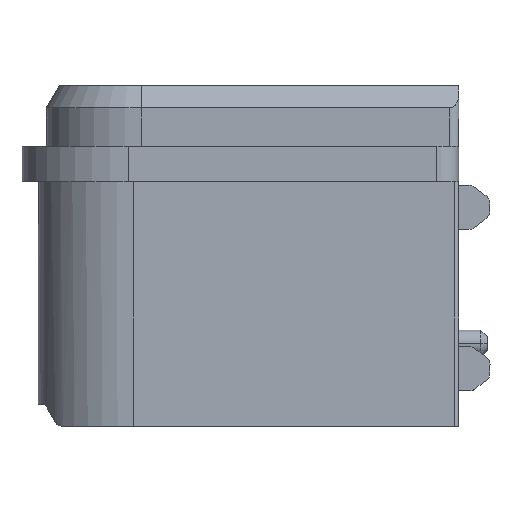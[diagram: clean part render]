
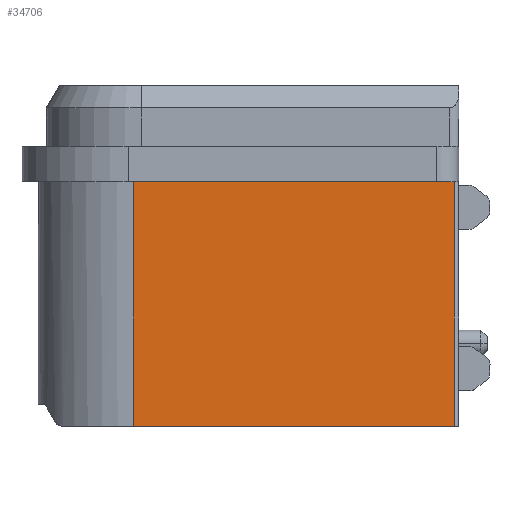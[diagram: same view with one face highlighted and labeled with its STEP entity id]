
A CAD part, left-side view. The second image highlights one B-rep face of the part: STEP entity #34706.
In plain terms, the highlighted planar face has unit normal (-1, 0, 0).
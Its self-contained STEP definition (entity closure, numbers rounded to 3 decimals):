
#3129 = PLANE ( 'NONE',  #39434 ) ;
#3597 = CARTESIAN_POINT ( 'NONE',  ( -66.335, 2.725, -19.295 ) ) ;
#5612 = CARTESIAN_POINT ( 'NONE',  ( -66.335, 2.725, -19.295 ) ) ;
#6205 = EDGE_CURVE ( 'NONE', #19717, #52200, #44287, .T. ) ;
#9657 = ORIENTED_EDGE ( 'NONE', *, *, #47470, .F. ) ;
#11625 = ORIENTED_EDGE ( 'NONE', *, *, #6205, .T. ) ;
#12045 = FACE_OUTER_BOUND ( 'NONE', #46489, .T. ) ;
#14490 = EDGE_CURVE ( 'NONE', #52789, #57006, #51337, .T. ) ;
#15240 = CARTESIAN_POINT ( 'NONE',  ( -66.335, 9.985, -19.295 ) ) ;
#15249 = VECTOR ( 'NONE', #26950, 1000. ) ;
#18640 = CARTESIAN_POINT ( 'NONE',  ( -66.335, 2.725, -13.765 ) ) ;
#19717 = VERTEX_POINT ( 'NONE', #26865 ) ;
#21662 = CARTESIAN_POINT ( 'NONE',  ( -66.335, 2.725, -19.295 ) ) ;
#24126 = EDGE_CURVE ( 'NONE', #57006, #19717, #40318, .T. ) ;
#26171 = DIRECTION ( 'NONE',  ( 0., 0., -1. ) ) ;
#26865 = CARTESIAN_POINT ( 'NONE',  ( -66.335, 9.985, -13.765 ) ) ;
#26950 = DIRECTION ( 'NONE',  ( 0., 1., 0. ) ) ;
#30899 = CARTESIAN_POINT ( 'NONE',  ( -66.335, 9.985, -13.765 ) ) ;
#34706 = ADVANCED_FACE ( 'NONE', ( #12045 ), #3129, .T. ) ;
#35633 = LINE ( 'NONE', #3597, #56356 ) ;
#35672 = VECTOR ( 'NONE', #26171, 1000. ) ;
#36169 = CARTESIAN_POINT ( 'NONE',  ( -66.335, 2.725, -13.765 ) ) ;
#39326 = DIRECTION ( 'NONE',  ( 0., 0., 1. ) ) ;
#39434 = AXIS2_PLACEMENT_3D ( 'NONE', #44082, #58028, #39326 ) ;
#40318 = LINE ( 'NONE', #36169, #15249 ) ;
#40695 = DIRECTION ( 'NONE',  ( 0., 1., 0. ) ) ;
#43816 = ORIENTED_EDGE ( 'NONE', *, *, #24126, .T. ) ;
#44082 = CARTESIAN_POINT ( 'NONE',  ( -66.335, 2.625, -13.765 ) ) ;
#44287 = LINE ( 'NONE', #30899, #35672 ) ;
#46489 = EDGE_LOOP ( 'NONE', ( #43816, #11625, #9657, #54322 ) ) ;
#47470 = EDGE_CURVE ( 'NONE', #52789, #52200, #35633, .T. ) ;
#51337 = LINE ( 'NONE', #5612, #53732 ) ;
#52200 = VERTEX_POINT ( 'NONE', #15240 ) ;
#52789 = VERTEX_POINT ( 'NONE', #21662 ) ;
#53732 = VECTOR ( 'NONE', #56335, 1000. ) ;
#54322 = ORIENTED_EDGE ( 'NONE', *, *, #14490, .T. ) ;
#56335 = DIRECTION ( 'NONE',  ( 0., 0., 1. ) ) ;
#56356 = VECTOR ( 'NONE', #40695, 1000. ) ;
#57006 = VERTEX_POINT ( 'NONE', #18640 ) ;
#58028 = DIRECTION ( 'NONE',  ( -1., 0., 0. ) ) ;
